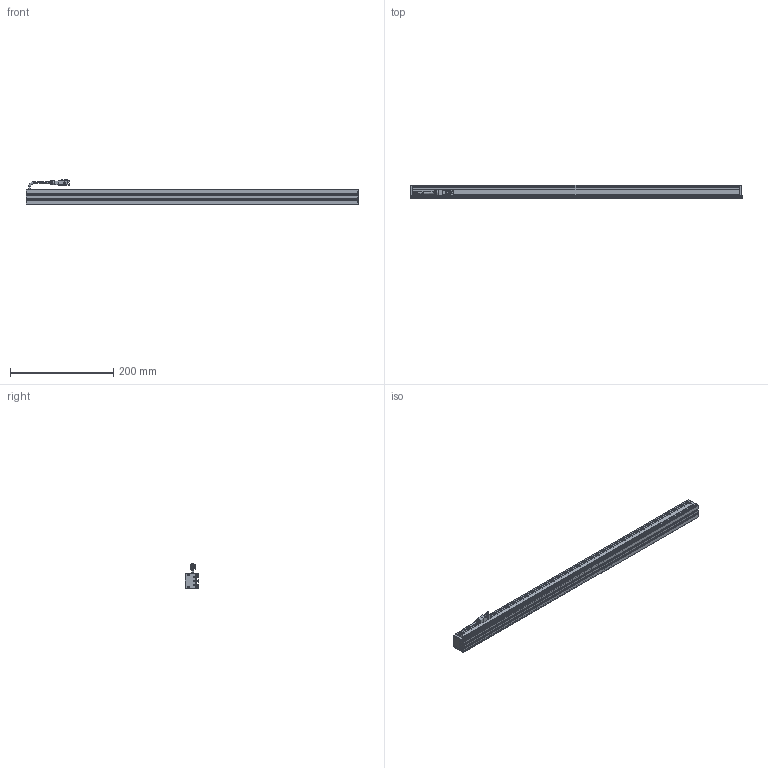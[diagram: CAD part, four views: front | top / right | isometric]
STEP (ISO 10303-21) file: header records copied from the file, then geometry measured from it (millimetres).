
FILE_DESCRIPTION (( 'STEP AP203' ), '1' );
FILE_NAME ('CK-BL64228.STEP', '2026-01-02T06:14:40', ( '' ), ( '' ), 'SwSTEP 2.0', 'SolidWorks 2022', '' );
FILE_SCHEMA (( 'CONFIG_CONTROL_DESIGN' ));
Length unit declared in the file: millimetre
Products named in the file (6): 光源线-01; CK-BL64228; CK-BL64228-001A; 十字沉头螺丝 M2x10; CK-BL64228-003A; CK-BL64228-002A
Assembly tree (11 placements, depth 2):
  CK-BL64228
    CK-BL64228-001A
    CK-BL64228-002A  x2
    CK-BL64228-003A
    光源线-01
    十字沉头螺丝 M2x10  x6
Bounding box: 642 x 27 x 47.34 mm (x, y, z)
Volume: 207372.6 mm3; surface area: 181550.3 mm2
Topology: 13 solids, 13 shells, 575 faces, 1494 edges, 950 vertices
Faces by surface type: plane 337, cylinder 172, cone 46, bspline 20
Entity records: 13997 total; most frequent: CARTESIAN_POINT 2782, ORIENTED_EDGE 2202, DIRECTION 2163, EDGE_CURVE 1101, LINE 781, VECTOR 781, VERTEX_POINT 714, AXIS2_PLACEMENT_3D 691
